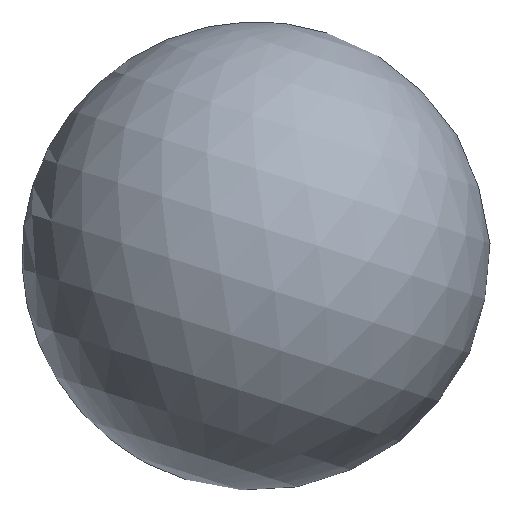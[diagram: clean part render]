
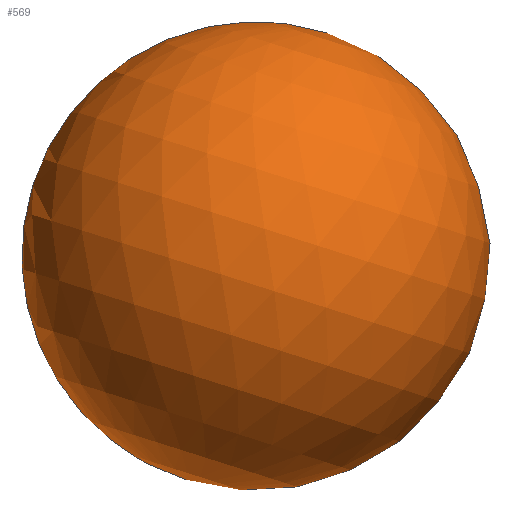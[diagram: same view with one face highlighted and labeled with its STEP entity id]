
A CAD part, top view. The second image highlights one B-rep face of the part: STEP entity #569.
In plain terms, the highlighted spherical face has radius 10 mm.
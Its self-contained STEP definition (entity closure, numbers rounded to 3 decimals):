
#27=SPHERICAL_SURFACE('',#704,10.);
#42=FACE_BOUND('',#121,.T.);
#87=FACE_OUTER_BOUND('',#120,.T.);
#120=EDGE_LOOP('',(#485,#486));
#121=EDGE_LOOP('',(#487));
#232=CIRCLE('',#698,5.103);
#236=CIRCLE('',#705,10.);
#285=VERTEX_POINT('',#994);
#290=VERTEX_POINT('',#1008);
#291=VERTEX_POINT('',#1009);
#354=EDGE_CURVE('',#285,#285,#232,.T.);
#360=EDGE_CURVE('',#290,#291,#236,.T.);
#485=ORIENTED_EDGE('',*,*,#360,.T.);
#486=ORIENTED_EDGE('',*,*,#360,.F.);
#487=ORIENTED_EDGE('',*,*,#354,.T.);
#569=ADVANCED_FACE('',(#87,#42),#27,.T.);
#698=AXIS2_PLACEMENT_3D('',#995,#811,#812);
#704=AXIS2_PLACEMENT_3D('',#1007,#825,#826);
#705=AXIS2_PLACEMENT_3D('',#1010,#827,#828);
#811=DIRECTION('center_axis',(0.,-1.,0.));
#812=DIRECTION('ref_axis',(0.,0.,1.));
#825=DIRECTION('center_axis',(0.,0.,1.));
#826=DIRECTION('ref_axis',(1.,0.,0.));
#827=DIRECTION('center_axis',(0.,-1.,0.));
#828=DIRECTION('ref_axis',(-1.,0.,0.));
#994=CARTESIAN_POINT('',(0.,8.6,-5.103));
#995=CARTESIAN_POINT('Origin',(0.,8.6,0.));
#1007=CARTESIAN_POINT('Origin',(0.,0.,0.));
#1008=CARTESIAN_POINT('',(0.,0.,10.));
#1009=CARTESIAN_POINT('',(0.,0.,-10.));
#1010=CARTESIAN_POINT('Origin',(0.,0.,0.));
